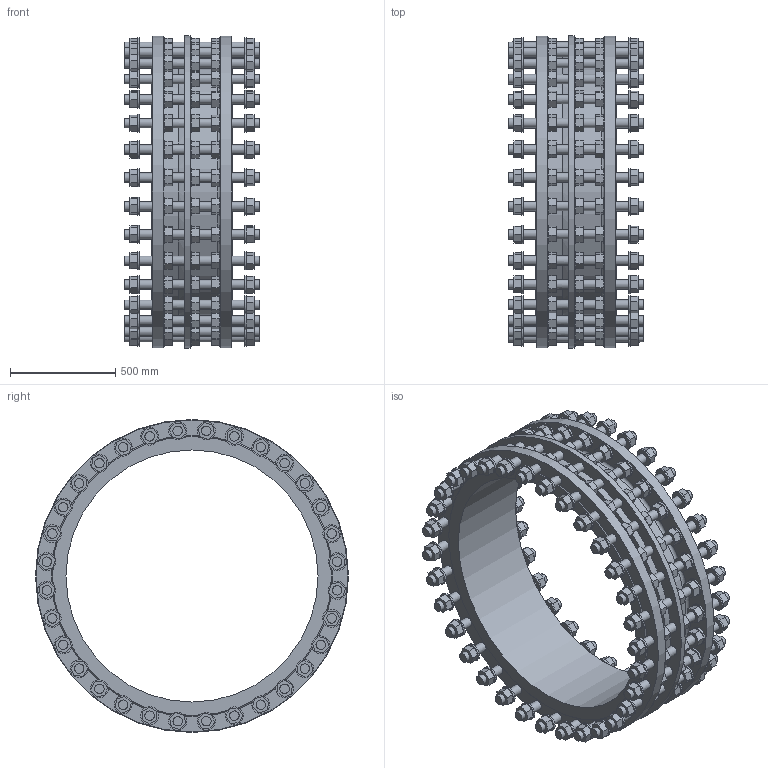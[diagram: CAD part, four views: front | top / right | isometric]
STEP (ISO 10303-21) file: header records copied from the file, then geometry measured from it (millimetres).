
FILE_DESCRIPTION (( 'STEP AP203' ), '1' );
FILE_NAME ('O_265_910_DN1200_1XXXXX00_L=385_REV01.step', '2024-10-11T11:00:41', ( '' ), ( '' ), 'SwSTEP 2.0', 'SolidWorks 2022', '' );
FILE_SCHEMA (( 'CONFIG_CONTROL_DESIGN' ));
Length unit declared in the file: millimetre
Products named in the file (1): O_265_910_DN1200_1XXXXX00_L=385_REV01
Bounding box: 640 x 1490 x 1490 mm (x, y, z)
Volume: 157974121.8 mm3; surface area: 9512345.1 mm2
Topology: 1 solids, 1 shells, 1820 faces, 4300 edges, 2909 vertices
Faces by surface type: plane 1456, cylinder 360, cone 3, torus 1
Full cylindrical faces by diameter (mm): 45 x192, 85 x160, 1200 x1, 1240 x1, 1290 x1, 1485 x2, 1490 x1
Entity records: 49976 total; most frequent: CARTESIAN_POINT 9210, DIRECTION 8145, ORIENTED_EDGE 7554, EDGE_CURVE 3777, LINE 2987, VECTOR 2987, VERTEX_POINT 2748, EDGE_LOOP 2739
